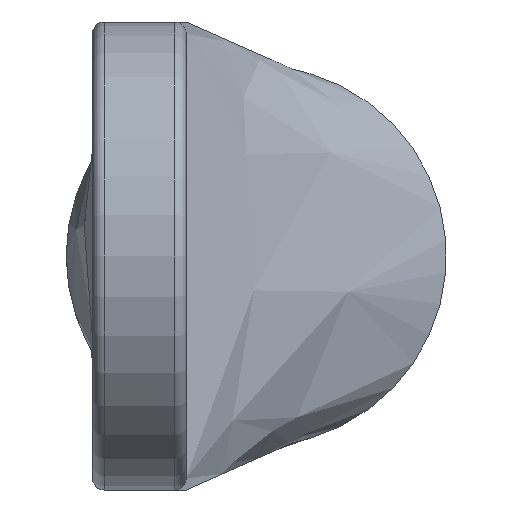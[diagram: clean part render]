
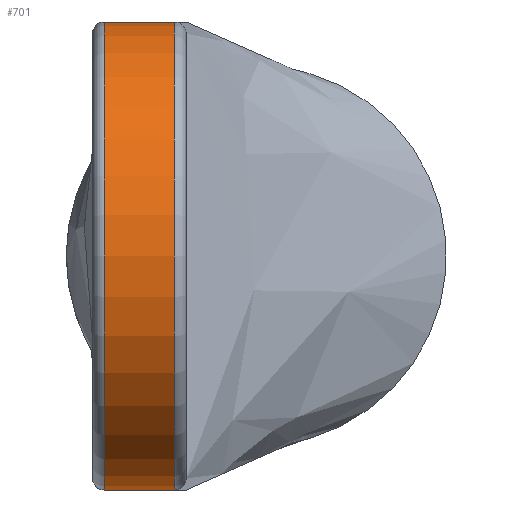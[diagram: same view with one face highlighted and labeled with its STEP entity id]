
A CAD part, left-side view. The second image highlights one B-rep face of the part: STEP entity #701.
In plain terms, the highlighted cylindrical face has radius 5 mm (diameter 10 mm), a partial arc.
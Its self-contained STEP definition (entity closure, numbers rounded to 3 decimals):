
#57=FACE_OUTER_BOUND('',#94,.T.);
#94=EDGE_LOOP('',(#519,#520,#521,#522));
#134=CIRCLE('',#762,5.);
#135=CIRCLE('',#766,5.);
#189=LINE('',#1314,#232);
#192=LINE('',#1320,#235);
#232=VECTOR('',#891,10.);
#235=VECTOR('',#896,10.);
#298=VERTEX_POINT('',#1257);
#300=VERTEX_POINT('',#1263);
#305=VERTEX_POINT('',#1313);
#307=VERTEX_POINT('',#1319);
#385=EDGE_CURVE('',#298,#300,#134,.T.);
#390=EDGE_CURVE('',#305,#300,#189,.T.);
#393=EDGE_CURVE('',#298,#307,#192,.T.);
#394=EDGE_CURVE('',#305,#307,#135,.T.);
#519=ORIENTED_EDGE('',*,*,#385,.F.);
#520=ORIENTED_EDGE('',*,*,#393,.T.);
#521=ORIENTED_EDGE('',*,*,#394,.F.);
#522=ORIENTED_EDGE('',*,*,#390,.T.);
#681=CYLINDRICAL_SURFACE('',#765,5.);
#701=ADVANCED_FACE('',(#57),#681,.T.);
#762=AXIS2_PLACEMENT_3D('',#1267,#883,#884);
#765=AXIS2_PLACEMENT_3D('',#1318,#894,#895);
#766=AXIS2_PLACEMENT_3D('',#1321,#897,#898);
#883=DIRECTION('center_axis',(0.,-1.,0.));
#884=DIRECTION('ref_axis',(-1.,0.,0.));
#891=DIRECTION('',(0.,-1.,0.));
#894=DIRECTION('center_axis',(0.,1.,0.));
#895=DIRECTION('ref_axis',(-0.707,0.,0.707));
#896=DIRECTION('',(0.,1.,0.));
#897=DIRECTION('center_axis',(0.,1.,0.));
#898=DIRECTION('ref_axis',(-1.,0.,0.));
#1257=CARTESIAN_POINT('',(-28.,1.75,5.));
#1263=CARTESIAN_POINT('',(-28.,1.75,-5.));
#1267=CARTESIAN_POINT('Origin',(-28.,1.75,0.));
#1313=CARTESIAN_POINT('',(-28.,3.25,-5.));
#1314=CARTESIAN_POINT('',(-28.,1.5,-5.));
#1318=CARTESIAN_POINT('Origin',(-28.,1.5,0.));
#1319=CARTESIAN_POINT('',(-28.,3.25,5.));
#1320=CARTESIAN_POINT('',(-28.,1.5,5.));
#1321=CARTESIAN_POINT('Origin',(-28.,3.25,0.));
